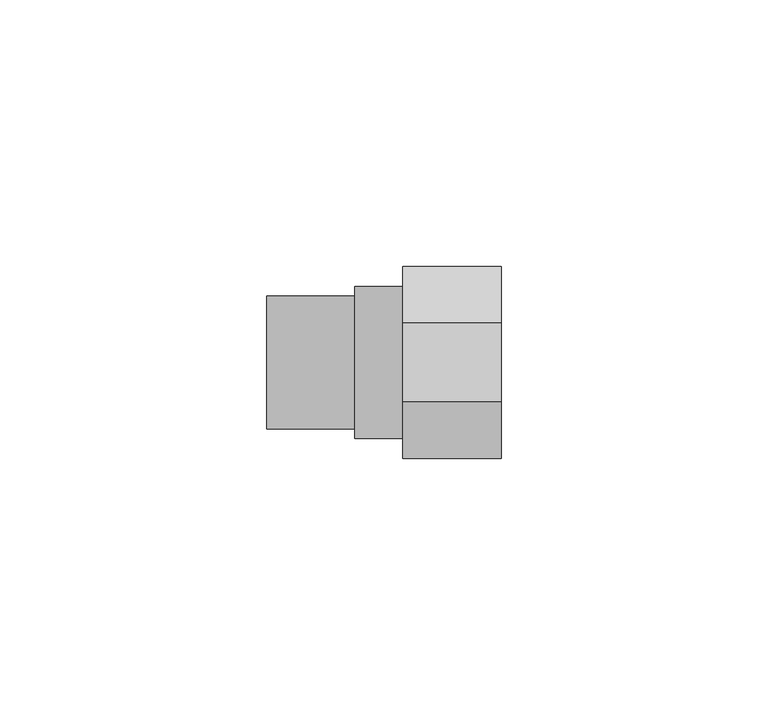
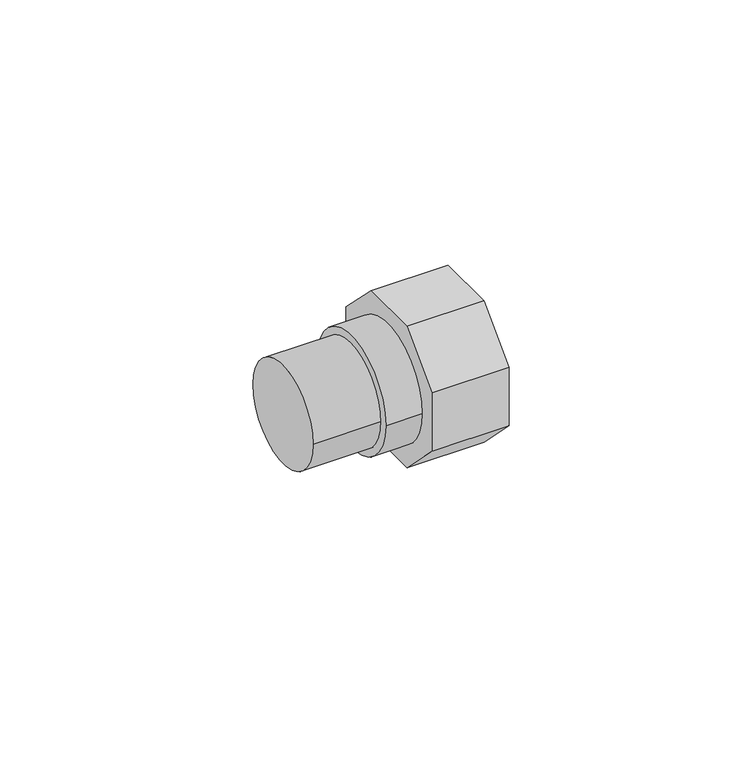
"""IFC4 building model written with IfcOpenShell, lengths in millimetres: pipe fitting geometry, PipeFitting_GirpiHTA_CPVC_ThreadedAdaptors_ForExpansionJoints : PipeFitting_GirpiHTA_CPVC_ThreadedAdaptors_ForExpansionJoints."""

from ifc_helpers import new_model, si_unit, point, frame, origin, origin_2d, place, context, project, spatial, polyline, circle_curve, trimmed, segment, composite_curve, outline, extrude, source, transform, mapped, element, save


def pipe_fitting_48a578fe(model_context):
    return source(origin(), model_context, "Body", "SweptSolid", [
        extrude(outline(polyline([(-7.4558441, 18.0), (7.4558441, 18.0), (18.0, 7.4558441), (18.0, -7.4558441), (7.4558441, -18.0), (-7.4558441, -18.0), (-18.0, -7.4558441), (-18.0, 7.4558441), (-7.4558441, 18.0)])), frame((17.25, 0.0, 0.0), z_axis=(1.0, 0.0, 0.0), x_axis=(0.0, 1.0, 0.0)), (0.0, 0.0, 1.0), 18.5),
        extrude(outline(composite_curve([segment(trimmed(circle_curve(origin_2d(), 14.25), [point((14.25, 0.0))], [point((-14.25, 0.0))], False, "CARTESIAN"), True, "CONTINUOUS"), segment(trimmed(circle_curve(origin_2d(), 14.25), [point((-14.25, 0.0))], [point((14.25, 0.0))], False, "CARTESIAN"), True, "CONTINUOUS")], self_intersect=False)), frame((8.25, 0.0, 0.0), z_axis=(1.0, 0.0, 0.0), x_axis=(0.0, 1.0, 0.0)), (0.0, 0.0, 1.0), 9.0),
        extrude(outline(composite_curve([segment(trimmed(circle_curve(origin_2d(), 12.5), [point((12.5, 0.0))], [point((-12.5, 0.0))], False, "CARTESIAN"), True, "CONTINUOUS"), segment(trimmed(circle_curve(origin_2d(), 12.5), [point((-12.5, 0.0))], [point((12.5, 0.0))], False, "CARTESIAN"), True, "CONTINUOUS")], self_intersect=False)), frame((-8.25, 0.0, 0.0), z_axis=(1.0, 0.0, 0.0), x_axis=(0.0, 1.0, 0.0)), (0.0, 0.0, 1.0), 16.5),
    ])


if __name__ == "__main__":
    model = new_model("IFC4")
    model_context = context("Model", 3, world=origin())
    ifc_project = project(units=[si_unit("LENGTHUNIT", "METRE", prefix="MILLI")], contexts=[model_context])
    site = spatial("IfcSite", under=ifc_project)
    building = spatial("IfcBuilding", under=site)
    placement = place(None, origin())
    pipe_fitting_shape = pipe_fitting_48a578fe(model_context)
    element("IfcPipeFitting", 1, ObjectType="PipeFitting_GirpiHTA_CPVC_ThreadedAdaptors_ForExpansionJoints : PipeFitting_GirpiHTA_CPVC_ThreadedAdaptors_ForExpansionJoints", at=placement, inside=building, context=model_context, shape_type="MappedRepresentation", body=[
        mapped(pipe_fitting_shape, transform((0.0, 0.0, 0.0), x_axis=(1.0, 0.0, 0.0), y_axis=(0.0, 1.0, 0.0), z_axis=(0.0, 0.0, 1.0))),
    ])
    save(model, "model.ifc")
